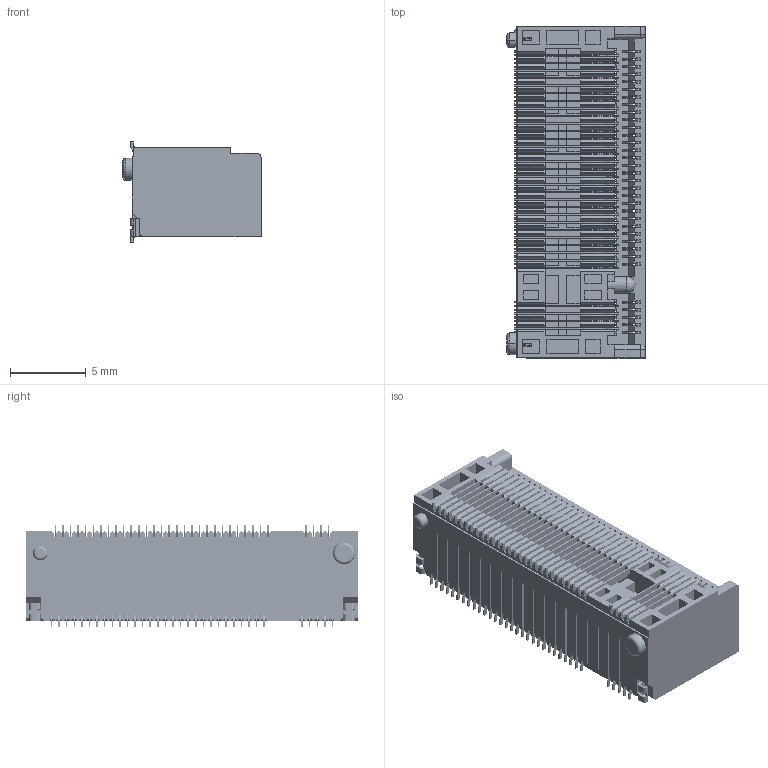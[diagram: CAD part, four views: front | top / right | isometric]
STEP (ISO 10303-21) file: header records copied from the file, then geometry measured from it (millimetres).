
FILE_DESCRIPTION((''),'2;1');
FILE_NAME('ASM0006_SW0001','2019-02-15T',('liushifeng'),(''),'PRO/ENGINEER BY PARAMETRIC TECHNOLOGY CORPORATION, 2009360','PRO/ENGINEER BY PARAMETRIC TECHNOLOGY CORPORATION, 2009360','');
FILE_SCHEMA(('CONFIG_CONTROL_DESIGN'));
Products named in the file (1): ASM0006_SW0001
Bounding box: 9.1 x 21.85 x 6.7 mm (x, y, z)
Volume: 697.5 mm3; surface area: 2916.8 mm2
Topology: 1 solids, 1 shells, 8522 faces, 27055 edges, 17715 vertices
Faces by surface type: plane 5545, cylinder 2970, torus 4, sphere 3
Entity records: 318900 total; most frequent: ORIENTED_EDGE 54110, CARTESIAN_POINT 53506, DIRECTION 50033, EDGE_CURVE 27055, VECTOR 21095, LINE 21095, VERTEX_POINT 17715, AXIS2_PLACEMENT_3D 14469
